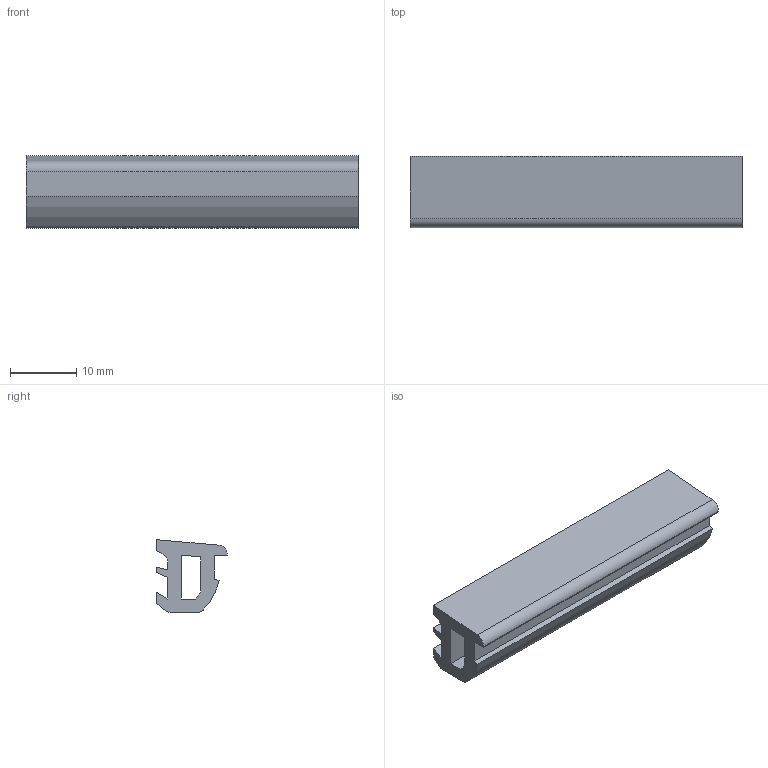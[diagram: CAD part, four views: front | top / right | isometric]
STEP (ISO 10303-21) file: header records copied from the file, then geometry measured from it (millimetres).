
FILE_DESCRIPTION(('STEP AP214'),'1');
FILE_NAME('RP4S-.stp','2017-07-25T07:07:11',(' '),(' '),'Spatial InterOp 3D',' ',' ');
FILE_SCHEMA(('automotive_design'));
Length unit declared in the file: millimetre
Products named in the file (1): RP4S-
Bounding box: 50 x 10.7 x 10.93 mm (x, y, z)
Volume: 3200.2 mm3; surface area: 3416.7 mm2
Topology: 1 solids, 1 shells, 28 faces, 78 edges, 52 vertices
Faces by surface type: plane 22, cylinder 6
Entity records: 1138 total; most frequent: CARTESIAN_POINT 159, ORIENTED_EDGE 156, DIRECTION 148, EDGE_CURVE 78, LINE 66, VECTOR 66, VERTEX_POINT 52, AXIS2_PLACEMENT_3D 41
